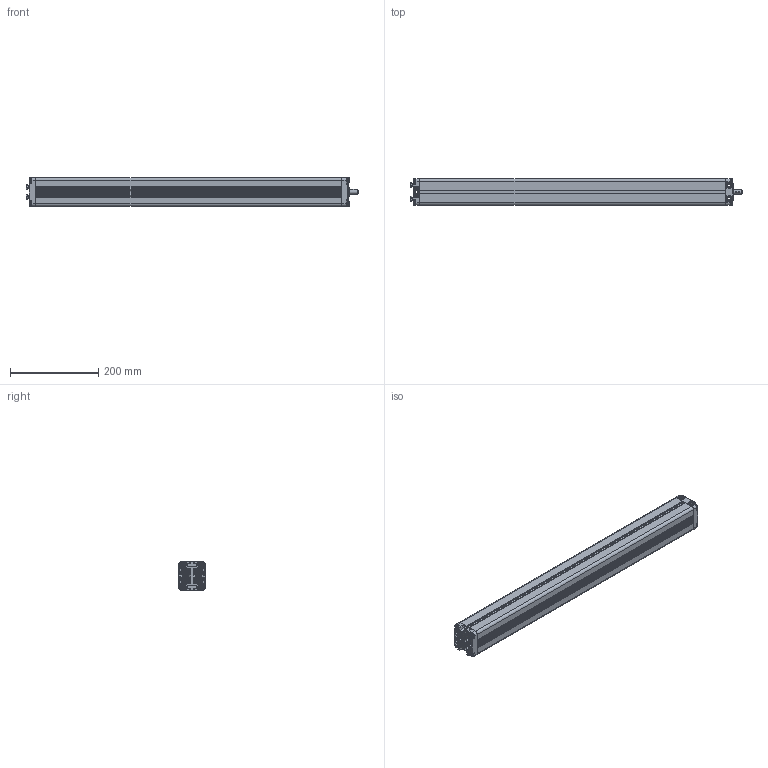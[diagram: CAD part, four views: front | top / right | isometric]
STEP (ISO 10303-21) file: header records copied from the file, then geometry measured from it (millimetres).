
FILE_DESCRIPTION(/* description */ ('Unknown'),/* implementation_level */ '2;1');
FILE_NAME(/* name */ '103.20035 Pumpe PF 4850 W',/* time_stamp */ '2018-01-19T16:30:20+01:00',/* author */ ('Unknown'),/* organization */ ('Unknown'),/* preprocessor_version */ 'ST-DEVELOPER v16.7',/* originating_system */ 'DEX',/* authorisation */ $);
FILE_SCHEMA (('AUTOMOTIVE_DESIGN {1 0 10303 214 3 1 1}'));
Products named in the file (20): 103.20035; 115.10055_oa_0; 125.00126; 115.00008_oa_1; 142.00021; 125.00021; 115.10055_oa_2; 115.00008_oa_3; 142.00013; 115.10055_oa_4; 115.00008_oa_5; 115.10055_oa_6; 115.00008_oa_7; 142.00057; 125.00145; 115.00141; 126.00076; 122.00040; 119.00355; 126.00075
Assembly tree (35 placements, depth 3):
  103.20035
    115.10055_oa_0
      125.00126
      115.00008_oa_1
      142.00021
      125.00021
    115.10055_oa_2
      125.00126
      115.00008_oa_3
      142.00021
      125.00021
    142.00013  x8
    115.10055_oa_4
      125.00126
      115.00008_oa_5
      142.00021
      125.00021
    115.10055_oa_6
      125.00126
      115.00008_oa_7
      142.00021
      125.00021
    142.00057
    125.00145
    115.00141
      126.00076
      122.00040
    119.00355
    126.00075
Bounding box: 751.47 x 60 x 65 mm (x, y, z)
Volume: 860896.5 mm3; surface area: 528185.2 mm2
Topology: 26 solids, 26 shells, 2342 faces, 5747 edges, 3441 vertices
Faces by surface type: plane 912, cylinder 537, bspline 452, cone 323, torus 106, sphere 12
Full cylindrical faces by diameter (mm): 3.5 x4, 4.1 x4, 4.2 x4, 5 x8, 6.917 x8, 8 x9, 9.8 x8, 10 x3, 10.4 x1, 13 x4, 14 x2, 14.4 x4, 17.9 x8, 18 x1, 19 x1
Entity records: 75436 total; most frequent: CARTESIAN_POINT 38101, ORIENTED_EDGE 8008, DIRECTION 6425, EDGE_CURVE 4004, VERTEX_POINT 2556, AXIS2_PLACEMENT_3D 2245, LINE 1935, VECTOR 1935
